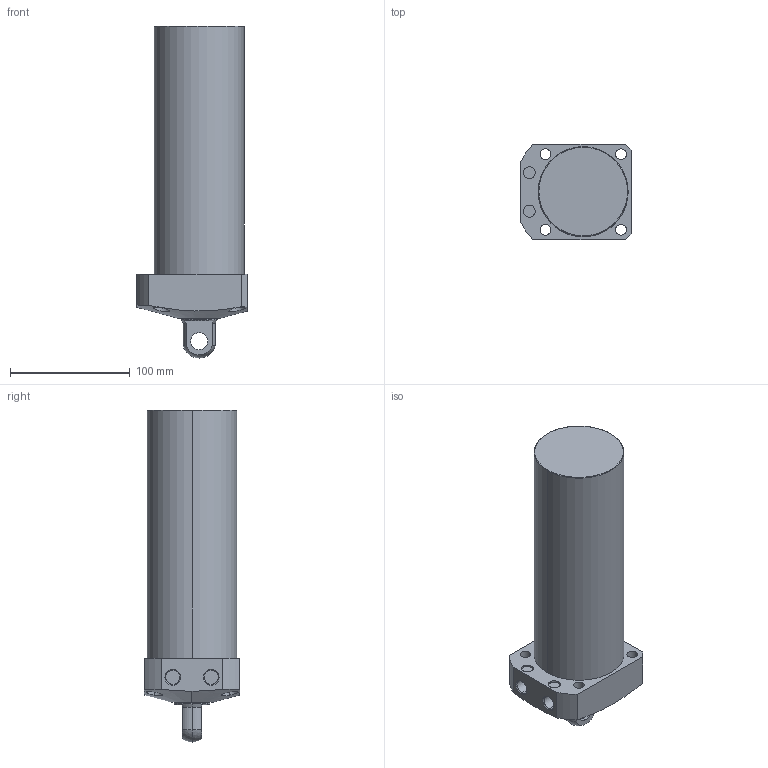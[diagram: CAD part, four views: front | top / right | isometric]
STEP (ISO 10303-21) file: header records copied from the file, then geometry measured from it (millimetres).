
FILE_DESCRIPTION (( 'STEP AP203' ), '1' );
FILE_NAME ('CLL-075CP-170.STEP', '2019-12-25T08:03:52', ( '' ), ( '' ), 'SwSTEP 2.0', 'SolidWorks 2015', '' );
FILE_SCHEMA (( 'CONFIG_CONTROL_DESIGN' ));
Length unit declared in the file: millimetre
Products named in the file (1): CLL-075CP-170
Bounding box: 92 x 80 x 277 mm (x, y, z)
Volume: 1141939.9 mm3; surface area: 80676.9 mm2
Topology: 1 solids, 1 shells, 68 faces, 159 edges, 103 vertices
Faces by surface type: cylinder 35, plane 21, cone 8, sphere 2, torus 2
Entity records: 2459 total; most frequent: CARTESIAN_POINT 762, DIRECTION 357, ORIENTED_EDGE 318, EDGE_CURVE 159, AXIS2_PLACEMENT_3D 149, VERTEX_POINT 103, EDGE_LOOP 88, CIRCLE 80
